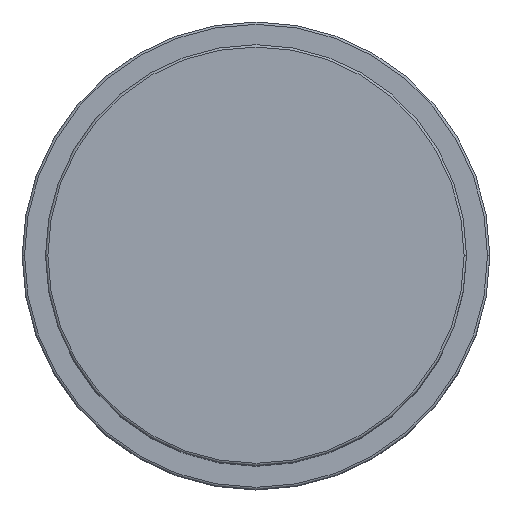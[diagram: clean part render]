
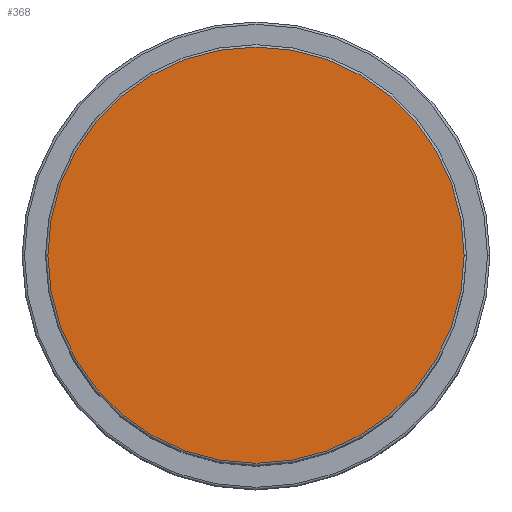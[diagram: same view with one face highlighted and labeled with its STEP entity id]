
A CAD part, top view. The second image highlights one B-rep face of the part: STEP entity #368.
In plain terms, the highlighted planar face has unit normal (0, 0, 1).
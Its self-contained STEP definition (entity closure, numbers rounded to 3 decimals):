
#31 = AXIS2_PLACEMENT_3D ( 'NONE', #774, #1717, #1171 ) ;
#85 = AXIS2_PLACEMENT_3D ( 'NONE', #1118, #424, #1503 ) ;
#267 = ORIENTED_EDGE ( 'NONE', *, *, #1182, .T. ) ;
#368 = ADVANCED_FACE ( 'NONE', ( #896 ), #504, .T. ) ;
#424 = DIRECTION ( 'NONE',  ( 0., 0., 1. ) ) ;
#472 = VERTEX_POINT ( 'NONE', #528 ) ;
#504 = PLANE ( 'NONE',  #31 ) ;
#528 = CARTESIAN_POINT ( 'NONE',  ( 44.5, 0., 102. ) ) ;
#548 = VERTEX_POINT ( 'NONE', #956 ) ;
#641 = DIRECTION ( 'NONE',  ( 1., 0., 0. ) ) ;
#774 = CARTESIAN_POINT ( 'NONE',  ( 0., 0., 102. ) ) ;
#891 = EDGE_CURVE ( 'NONE', #548, #472, #963, .T. ) ;
#896 = FACE_OUTER_BOUND ( 'NONE', #1489, .T. ) ;
#956 = CARTESIAN_POINT ( 'NONE',  ( -44.5, 0., 102. ) ) ;
#963 = CIRCLE ( 'NONE', #1534, 44.5 ) ;
#1118 = CARTESIAN_POINT ( 'NONE',  ( 0., 0., 102. ) ) ;
#1171 = DIRECTION ( 'NONE',  ( 1., 0., 0. ) ) ;
#1174 = ORIENTED_EDGE ( 'NONE', *, *, #891, .T. ) ;
#1182 = EDGE_CURVE ( 'NONE', #472, #548, #1371, .T. ) ;
#1371 = CIRCLE ( 'NONE', #85, 44.5 ) ;
#1489 = EDGE_LOOP ( 'NONE', ( #267, #1174 ) ) ;
#1503 = DIRECTION ( 'NONE',  ( 1., 0., 0. ) ) ;
#1534 = AXIS2_PLACEMENT_3D ( 'NONE', #1741, #1587, #641 ) ;
#1587 = DIRECTION ( 'NONE',  ( 0., 0., 1. ) ) ;
#1717 = DIRECTION ( 'NONE',  ( 0., 0., 1. ) ) ;
#1741 = CARTESIAN_POINT ( 'NONE',  ( 0., 0., 102. ) ) ;
